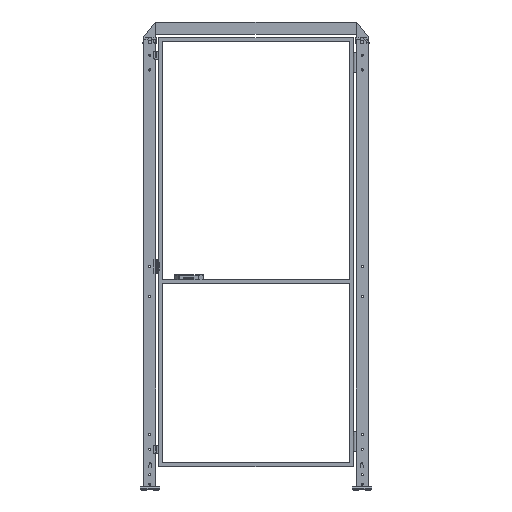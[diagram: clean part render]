
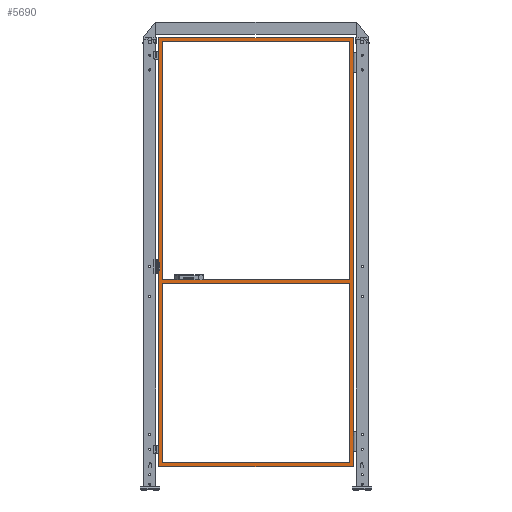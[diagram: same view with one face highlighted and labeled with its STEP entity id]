
A CAD part, top view. The second image highlights one B-rep face of the part: STEP entity #5690.
In plain terms, the highlighted planar face has unit normal (0, 0, 1).
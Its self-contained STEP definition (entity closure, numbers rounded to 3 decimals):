
#5690=ADVANCED_FACE('',(#11648,#11649,#11650),#11651,.F.);
#11648=FACE_BOUND('',#19171,.T.);
#11649=FACE_OUTER_BOUND('',#19172,.T.);
#11650=FACE_BOUND('',#19173,.T.);
#11651=PLANE('',#19174);
#19171=EDGE_LOOP('',(#35965,#35966,#35967,#35968));
#19172=EDGE_LOOP('',(#35969,#35970,#35971,#35972));
#19173=EDGE_LOOP('',(#35973,#35974,#35975,#35976));
#19174=AXIS2_PLACEMENT_3D('',#35977,#35978,#35979);
#35965=ORIENTED_EDGE('',*,*,#42847,.F.);
#35966=ORIENTED_EDGE('',*,*,#42853,.T.);
#35967=ORIENTED_EDGE('',*,*,#42875,.T.);
#35968=ORIENTED_EDGE('',*,*,#42880,.F.);
#35969=ORIENTED_EDGE('',*,*,#42891,.F.);
#35970=ORIENTED_EDGE('',*,*,#42885,.F.);
#35971=ORIENTED_EDGE('',*,*,#42855,.F.);
#35972=ORIENTED_EDGE('',*,*,#42889,.F.);
#35973=ORIENTED_EDGE('',*,*,#42877,.F.);
#35974=ORIENTED_EDGE('',*,*,#42872,.F.);
#35975=ORIENTED_EDGE('',*,*,#42883,.T.);
#35976=ORIENTED_EDGE('',*,*,#42892,.T.);
#35977=CARTESIAN_POINT('',(515.0,130.0,10.0));
#35978=DIRECTION('',(0.,0.0,-1.0));
#35979=DIRECTION('',(-1.0,0.0,0.));
#42847=EDGE_CURVE('',#52941,#52944,#52945,.T.);
#42853=EDGE_CURVE('',#52941,#52952,#52954,.T.);
#42855=EDGE_CURVE('',#52956,#52957,#52958,.T.);
#42872=EDGE_CURVE('',#52984,#52982,#52986,.T.);
#42875=EDGE_CURVE('',#52952,#52988,#52990,.T.);
#42877=EDGE_CURVE('',#52982,#52992,#52993,.T.);
#42880=EDGE_CURVE('',#52944,#52988,#52996,.T.);
#42883=EDGE_CURVE('',#52984,#52998,#53000,.T.);
#42885=EDGE_CURVE('',#52957,#53002,#53003,.T.);
#42889=EDGE_CURVE('',#53006,#52956,#53008,.T.);
#42891=EDGE_CURVE('',#53002,#53006,#53010,.T.);
#42892=EDGE_CURVE('',#52998,#52992,#53011,.T.);
#52941=VERTEX_POINT('',#68243);
#52944=VERTEX_POINT('',#68247);
#52945=LINE('',#68248,#68249);
#52952=VERTEX_POINT('',#68259);
#52954=LINE('',#68262,#68263);
#52956=VERTEX_POINT('',#68265);
#52957=VERTEX_POINT('',#68266);
#52958=LINE('',#68267,#68268);
#52982=VERTEX_POINT('',#68304);
#52984=VERTEX_POINT('',#68307);
#52986=LINE('',#68310,#68311);
#52988=VERTEX_POINT('',#68313);
#52990=LINE('',#68316,#68317);
#52992=VERTEX_POINT('',#68319);
#52993=LINE('',#68320,#68321);
#52996=LINE('',#68325,#68326);
#52998=VERTEX_POINT('',#68328);
#53000=LINE('',#68331,#68332);
#53002=VERTEX_POINT('',#68334);
#53003=LINE('',#68335,#68336);
#53006=VERTEX_POINT('',#68340);
#53008=LINE('',#68343,#68344);
#53010=LINE('',#68346,#68347);
#53011=LINE('',#68348,#68349);
#68243=CARTESIAN_POINT('',(995.0,2300.0,10.));
#68247=CARTESIAN_POINT('',(35.,2300.0,10.0));
#68248=CARTESIAN_POINT('',(515.0,2300.0,10.0));
#68249=VECTOR('',#75637,1.0);
#68259=CARTESIAN_POINT('',(995.0,1080.0,10.));
#68262=CARTESIAN_POINT('',(995.0,1220.0,10.));
#68263=VECTOR('',#75642,1.0);
#68265=CARTESIAN_POINT('',(15.0,120.0,10.0));
#68266=CARTESIAN_POINT('',(15.,2320.0,10.0));
#68267=CARTESIAN_POINT('',(15.0,130.0,10.0));
#68268=VECTOR('',#75643,1.0);
#68304=CARTESIAN_POINT('',(35.,1060.0,10.0));
#68307=CARTESIAN_POINT('',(995.0,1060.0,10.));
#68310=CARTESIAN_POINT('',(515.0,1060.0,10.0));
#68311=VECTOR('',#75658,1.0);
#68313=CARTESIAN_POINT('',(35.,1080.0,10.0));
#68316=CARTESIAN_POINT('',(515.0,1080.0,10.0));
#68317=VECTOR('',#75660,1.0);
#68319=CARTESIAN_POINT('',(35.0,140.0,10.0));
#68320=CARTESIAN_POINT('',(35.,1220.0,10.0));
#68321=VECTOR('',#75661,1.0);
#68325=CARTESIAN_POINT('',(35.,1220.0,10.0));
#68326=VECTOR('',#75663,1.0);
#68328=CARTESIAN_POINT('',(995.0,140.0,10.));
#68331=CARTESIAN_POINT('',(995.0,1220.0,10.));
#68332=VECTOR('',#75665,1.0);
#68334=CARTESIAN_POINT('',(1015.0,2320.0,10.));
#68335=CARTESIAN_POINT('',(25.,2320.0,10.0));
#68336=VECTOR('',#75666,1.0);
#68340=CARTESIAN_POINT('',(1015.0,120.0,10.));
#68343=CARTESIAN_POINT('',(515.0,120.0,10.0));
#68344=VECTOR('',#75669,1.0);
#68346=CARTESIAN_POINT('',(1015.0,1220.0,10.));
#68347=VECTOR('',#75670,1.0);
#68348=CARTESIAN_POINT('',(515.0,140.0,10.0));
#68349=VECTOR('',#75671,1.0);
#75637=DIRECTION('',(-1.0,0.0,0.));
#75642=DIRECTION('',(0.,-1.0,0.));
#75643=DIRECTION('',(0.0,1.0,0.0));
#75658=DIRECTION('',(-1.0,0.0,0.));
#75660=DIRECTION('',(-1.0,0.0,0.));
#75661=DIRECTION('',(0.,-1.0,0.));
#75663=DIRECTION('',(0.,-1.0,0.));
#75665=DIRECTION('',(0.,-1.0,0.));
#75666=DIRECTION('',(1.0,0.,0.));
#75669=DIRECTION('',(-1.0,0.0,0.));
#75670=DIRECTION('',(0.,-1.0,0.));
#75671=DIRECTION('',(-1.0,0.0,0.));
